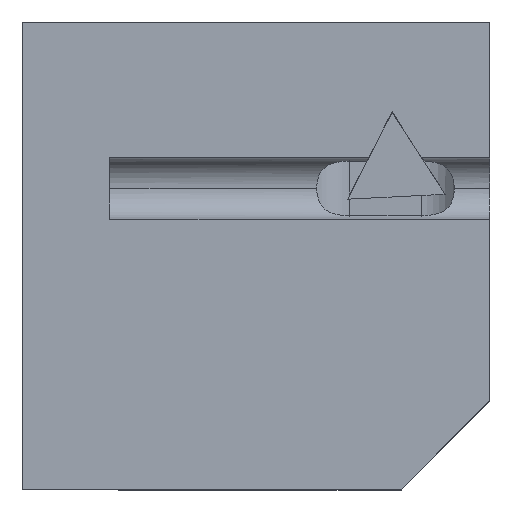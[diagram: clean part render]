
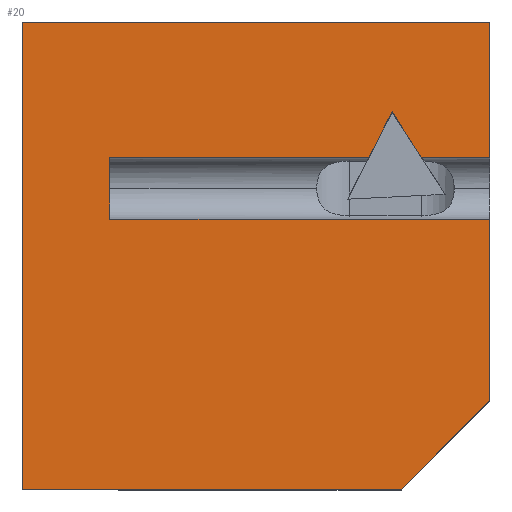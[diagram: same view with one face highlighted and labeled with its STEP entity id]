
A CAD part, top view. The second image highlights one B-rep face of the part: STEP entity #20.
In plain terms, the highlighted planar face has unit normal (0, 0, 1).
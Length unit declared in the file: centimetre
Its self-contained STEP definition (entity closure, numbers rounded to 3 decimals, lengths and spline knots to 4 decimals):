
#20 = ADVANCED_FACE ( 'NONE', ( #894 ), #1448, .T. ) ;
#22 = VECTOR ( 'NONE', #921, 100. ) ;
#24 = VECTOR ( 'NONE', #384, 100. ) ;
#41 = EDGE_CURVE ( 'NONE', #152, #1541, #80, .T. ) ;
#47 = ORIENTED_EDGE ( 'NONE', *, *, #1460, .T. ) ;
#77 = VECTOR ( 'NONE', #787, 100. ) ;
#80 = LINE ( 'NONE', #351, #1451 ) ;
#134 = DIRECTION ( 'NONE',  ( 0., 1., 0. ) ) ;
#152 = VERTEX_POINT ( 'NONE', #544 ) ;
#156 = CARTESIAN_POINT ( 'NONE',  ( 187.103, 0., 1000. ) ) ;
#165 = VERTEX_POINT ( 'NONE', #413 ) ;
#238 = VECTOR ( 'NONE', #834, 100. ) ;
#243 = ORIENTED_EDGE ( 'NONE', *, *, #302, .T. ) ;
#259 = DIRECTION ( 'NONE',  ( -0.543, 0.84, 0. ) ) ;
#278 = DIRECTION ( 'NONE',  ( -0.456, -0.89, 0. ) ) ;
#295 = CARTESIAN_POINT ( 'NONE',  ( 0., 1000., 1000. ) ) ;
#301 = AXIS2_PLACEMENT_3D ( 'NONE', #616, #1178, #1725 ) ;
#302 = EDGE_CURVE ( 'NONE', #1304, #952, #1676, .T. ) ;
#304 = ORIENTED_EDGE ( 'NONE', *, *, #995, .F. ) ;
#312 = EDGE_CURVE ( 'NONE', #1304, #1695, #1386, .T. ) ;
#318 = CARTESIAN_POINT ( 'NONE',  ( 741.547, 710.4751, 1000. ) ) ;
#351 = CARTESIAN_POINT ( 'NONE',  ( 187.103, 710.4751, 1000. ) ) ;
#352 = CARTESIAN_POINT ( 'NONE',  ( 405.3091, -405.3091, 1000. ) ) ;
#374 = VERTEX_POINT ( 'NONE', #295 ) ;
#377 = LINE ( 'NONE', #641, #854 ) ;
#384 = DIRECTION ( 'NONE',  ( -1., 0., 0. ) ) ;
#413 = CARTESIAN_POINT ( 'NONE',  ( 791.3289, 807.6942, 1000. ) ) ;
#454 = VERTEX_POINT ( 'NONE', #736 ) ;
#513 = CARTESIAN_POINT ( 'NONE',  ( 0., 1000., 1000. ) ) ;
#544 = CARTESIAN_POINT ( 'NONE',  ( 854.1864, 710.4751, 1000. ) ) ;
#545 = CARTESIAN_POINT ( 'NONE',  ( 810.6182, 0., 1000. ) ) ;
#585 = LINE ( 'NONE', #1112, #1608 ) ;
#592 = LINE ( 'NONE', #1155, #1406 ) ;
#616 = CARTESIAN_POINT ( 'NONE',  ( 0., 0., 1000. ) ) ;
#641 = CARTESIAN_POINT ( 'NONE',  ( 1000., 1000., 1000. ) ) ;
#647 = DIRECTION ( 'NONE',  ( 0., -1., 0. ) ) ;
#648 = CARTESIAN_POINT ( 'NONE',  ( 0., 0., 1000. ) ) ;
#670 = ORIENTED_EDGE ( 'NONE', *, *, #1626, .T. ) ;
#720 = EDGE_CURVE ( 'NONE', #1541, #1303, #377, .T. ) ;
#731 = DIRECTION ( 'NONE',  ( 0., -1., 0. ) ) ;
#736 = CARTESIAN_POINT ( 'NONE',  ( 0., 0., 1000. ) ) ;
#739 = VECTOR ( 'NONE', #278, 100. ) ;
#748 = ORIENTED_EDGE ( 'NONE', *, *, #1545, .F. ) ;
#764 = CARTESIAN_POINT ( 'NONE',  ( 187.103, 710.4751, 1000. ) ) ;
#766 = DIRECTION ( 'NONE',  ( 1., 0., 0. ) ) ;
#787 = DIRECTION ( 'NONE',  ( 1., 0., 0. ) ) ;
#788 = VERTEX_POINT ( 'NONE', #1566 ) ;
#820 = ORIENTED_EDGE ( 'NONE', *, *, #1121, .T. ) ;
#825 = ORIENTED_EDGE ( 'NONE', *, *, #1536, .F. ) ;
#834 = DIRECTION ( 'NONE',  ( 1., 0., 0. ) ) ;
#847 = CARTESIAN_POINT ( 'NONE',  ( 1000., 710.4751, 1000. ) ) ;
#854 = VECTOR ( 'NONE', #1199, 100. ) ;
#875 = ORIENTED_EDGE ( 'NONE', *, *, #41, .T. ) ;
#894 = FACE_OUTER_BOUND ( 'NONE', #1002, .T. ) ;
#921 = DIRECTION ( 'NONE',  ( 0.707, 0.707, 0. ) ) ;
#952 = VERTEX_POINT ( 'NONE', #318 ) ;
#961 = LINE ( 'NONE', #513, #1085 ) ;
#966 = LINE ( 'NONE', #1525, #1466 ) ;
#983 = LINE ( 'NONE', #1543, #739 ) ;
#989 = ORIENTED_EDGE ( 'NONE', *, *, #312, .F. ) ;
#995 = EDGE_CURVE ( 'NONE', #1695, #788, #592, .T. ) ;
#1002 = EDGE_LOOP ( 'NONE', ( #748, #875, #1699, #670, #1332, #820, #1030, #47, #304, #989, #243, #825 ) ) ;
#1017 = CARTESIAN_POINT ( 'NONE',  ( 1000., 1000., 1000. ) ) ;
#1030 = ORIENTED_EDGE ( 'NONE', *, *, #1079, .T. ) ;
#1079 = EDGE_CURVE ( 'NONE', #1619, #1662, #1740, .T. ) ;
#1085 = VECTOR ( 'NONE', #647, 100. ) ;
#1112 = CARTESIAN_POINT ( 'NONE',  ( 1000., 1000., 1000. ) ) ;
#1116 = CARTESIAN_POINT ( 'NONE',  ( 1000., 189.3818, 1000. ) ) ;
#1121 = EDGE_CURVE ( 'NONE', #454, #1619, #1750, .T. ) ;
#1155 = CARTESIAN_POINT ( 'NONE',  ( 187.103, 577.7943, 1000. ) ) ;
#1178 = DIRECTION ( 'NONE',  ( 0., 0., 1. ) ) ;
#1199 = DIRECTION ( 'NONE',  ( 0., 1., 0. ) ) ;
#1204 = LINE ( 'NONE', #1488, #24 ) ;
#1303 = VERTEX_POINT ( 'NONE', #1017 ) ;
#1304 = VERTEX_POINT ( 'NONE', #764 ) ;
#1328 = VECTOR ( 'NONE', #731, 100. ) ;
#1332 = ORIENTED_EDGE ( 'NONE', *, *, #1613, .T. ) ;
#1386 = LINE ( 'NONE', #156, #1328 ) ;
#1406 = VECTOR ( 'NONE', #1702, 100. ) ;
#1448 = PLANE ( 'NONE',  #301 ) ;
#1451 = VECTOR ( 'NONE', #766, 100. ) ;
#1460 = EDGE_CURVE ( 'NONE', #1662, #788, #585, .T. ) ;
#1466 = VECTOR ( 'NONE', #259, 100. ) ;
#1488 = CARTESIAN_POINT ( 'NONE',  ( 0., 1000., 1000. ) ) ;
#1525 = CARTESIAN_POINT ( 'NONE',  ( 905.0475, 631.8103, 1000. ) ) ;
#1536 = EDGE_CURVE ( 'NONE', #165, #952, #983, .T. ) ;
#1541 = VERTEX_POINT ( 'NONE', #847 ) ;
#1543 = CARTESIAN_POINT ( 'NONE',  ( 791.3289, 807.6942, 1000. ) ) ;
#1544 = CARTESIAN_POINT ( 'NONE',  ( 187.103, 710.4751, 1000. ) ) ;
#1545 = EDGE_CURVE ( 'NONE', #152, #165, #966, .T. ) ;
#1547 = CARTESIAN_POINT ( 'NONE',  ( 187.103, 577.7943, 1000. ) ) ;
#1566 = CARTESIAN_POINT ( 'NONE',  ( 1000., 577.7943, 1000. ) ) ;
#1608 = VECTOR ( 'NONE', #134, 100. ) ;
#1613 = EDGE_CURVE ( 'NONE', #374, #454, #961, .T. ) ;
#1619 = VERTEX_POINT ( 'NONE', #545 ) ;
#1626 = EDGE_CURVE ( 'NONE', #1303, #374, #1204, .T. ) ;
#1662 = VERTEX_POINT ( 'NONE', #1116 ) ;
#1676 = LINE ( 'NONE', #1544, #238 ) ;
#1695 = VERTEX_POINT ( 'NONE', #1547 ) ;
#1699 = ORIENTED_EDGE ( 'NONE', *, *, #720, .T. ) ;
#1702 = DIRECTION ( 'NONE',  ( 1., 0., 0. ) ) ;
#1725 = DIRECTION ( 'NONE',  ( 1., 0., 0. ) ) ;
#1740 = LINE ( 'NONE', #352, #22 ) ;
#1750 = LINE ( 'NONE', #648, #77 ) ;
